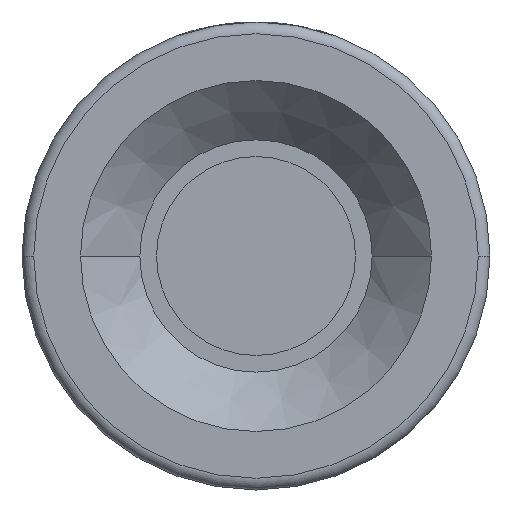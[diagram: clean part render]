
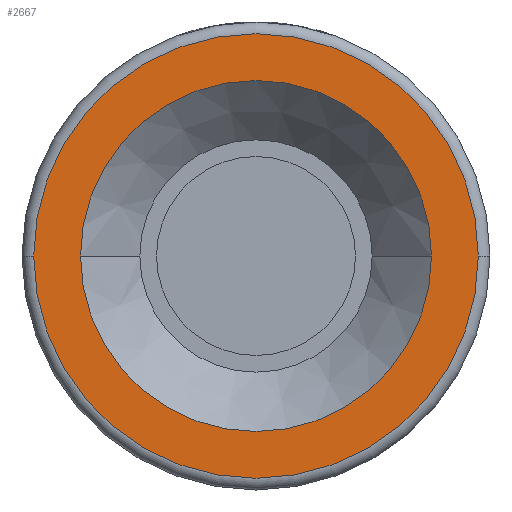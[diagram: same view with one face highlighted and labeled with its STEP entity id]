
A CAD part, front view. The second image highlights one B-rep face of the part: STEP entity #2667.
In plain terms, the highlighted planar face has unit normal (0, -1, 0).
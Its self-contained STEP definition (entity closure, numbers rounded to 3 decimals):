
#188 = DIRECTION ( 'NONE',  ( 1., 0., 0. ) ) ;
#264 = CIRCLE ( 'NONE', #2380, 15. ) ;
#533 = CIRCLE ( 'NONE', #1075, 19. ) ;
#614 = FACE_OUTER_BOUND ( 'NONE', #3091, .T. ) ;
#631 = DIRECTION ( 'NONE',  ( 0., -1., 0. ) ) ;
#1023 = EDGE_CURVE ( 'NONE', #2734, #3148, #2356, .T. ) ;
#1075 = AXIS2_PLACEMENT_3D ( 'NONE', #1464, #3828, #188 ) ;
#1169 = CARTESIAN_POINT ( 'NONE',  ( -19., -13., 0. ) ) ;
#1193 = CARTESIAN_POINT ( 'NONE',  ( 15., -13., 0. ) ) ;
#1343 = CARTESIAN_POINT ( 'NONE',  ( 19., -13., 0. ) ) ;
#1397 = CARTESIAN_POINT ( 'NONE',  ( -15., -13., 0. ) ) ;
#1431 = ORIENTED_EDGE ( 'NONE', *, *, #3525, .T. ) ;
#1464 = CARTESIAN_POINT ( 'NONE',  ( 0., -13., 0. ) ) ;
#1613 = ORIENTED_EDGE ( 'NONE', *, *, #3286, .F. ) ;
#1725 = AXIS2_PLACEMENT_3D ( 'NONE', #3224, #2902, #4205 ) ;
#1729 = ORIENTED_EDGE ( 'NONE', *, *, #2157, .T. ) ;
#1816 = CIRCLE ( 'NONE', #3884, 19. ) ;
#1911 = FACE_BOUND ( 'NONE', #4081, .T. ) ;
#1974 = ORIENTED_EDGE ( 'NONE', *, *, #1023, .F. ) ;
#2009 = CARTESIAN_POINT ( 'NONE',  ( 0., -13., 0. ) ) ;
#2107 = AXIS2_PLACEMENT_3D ( 'NONE', #3575, #631, #3250 ) ;
#2157 = EDGE_CURVE ( 'NONE', #4096, #3429, #1816, .T. ) ;
#2158 = DIRECTION ( 'NONE',  ( 1., 0., 0. ) ) ;
#2356 = CIRCLE ( 'NONE', #1725, 15. ) ;
#2380 = AXIS2_PLACEMENT_3D ( 'NONE', #2009, #4042, #3671 ) ;
#2667 = ADVANCED_FACE ( 'NONE', ( #614, #1911 ), #3229, .T. ) ;
#2734 = VERTEX_POINT ( 'NONE', #1397 ) ;
#2902 = DIRECTION ( 'NONE',  ( 0., -1., 0. ) ) ;
#3091 = EDGE_LOOP ( 'NONE', ( #1729, #1431 ) ) ;
#3148 = VERTEX_POINT ( 'NONE', #1193 ) ;
#3224 = CARTESIAN_POINT ( 'NONE',  ( 0., -13., 0. ) ) ;
#3229 = PLANE ( 'NONE',  #2107 ) ;
#3250 = DIRECTION ( 'NONE',  ( 1., 0., 0. ) ) ;
#3286 = EDGE_CURVE ( 'NONE', #3148, #2734, #264, .T. ) ;
#3429 = VERTEX_POINT ( 'NONE', #1169 ) ;
#3525 = EDGE_CURVE ( 'NONE', #3429, #4096, #533, .T. ) ;
#3575 = CARTESIAN_POINT ( 'NONE',  ( 20., -13., 0. ) ) ;
#3671 = DIRECTION ( 'NONE',  ( 1., 0., 0. ) ) ;
#3828 = DIRECTION ( 'NONE',  ( 0., -1., 0. ) ) ;
#3884 = AXIS2_PLACEMENT_3D ( 'NONE', #4074, #4094, #2158 ) ;
#4042 = DIRECTION ( 'NONE',  ( 0., -1., 0. ) ) ;
#4074 = CARTESIAN_POINT ( 'NONE',  ( 0., -13., 0. ) ) ;
#4081 = EDGE_LOOP ( 'NONE', ( #1613, #1974 ) ) ;
#4094 = DIRECTION ( 'NONE',  ( 0., -1., 0. ) ) ;
#4096 = VERTEX_POINT ( 'NONE', #1343 ) ;
#4205 = DIRECTION ( 'NONE',  ( 1., 0., 0. ) ) ;
